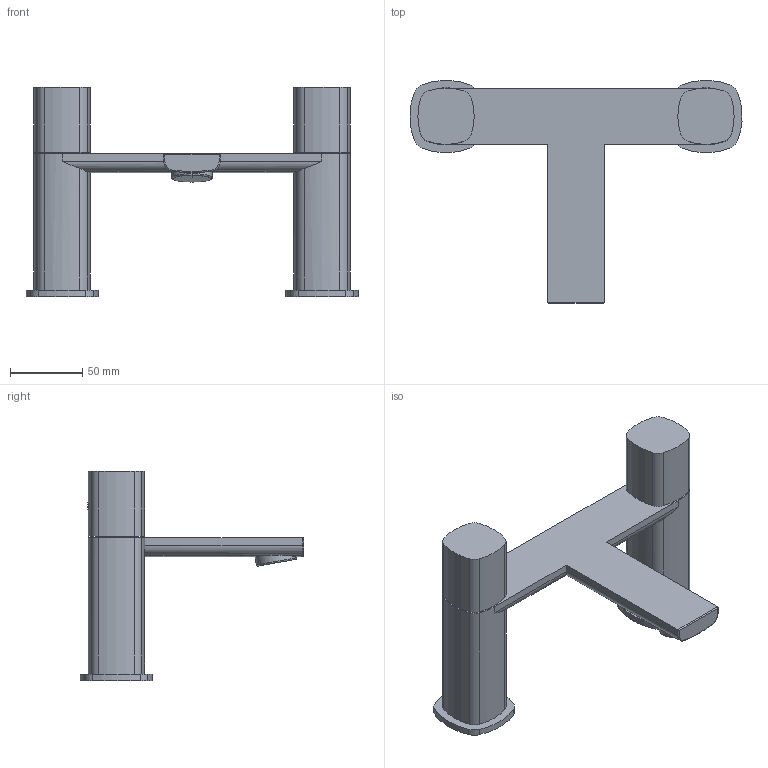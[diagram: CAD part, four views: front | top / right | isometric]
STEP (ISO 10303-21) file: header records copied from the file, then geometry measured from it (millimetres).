
FILE_DESCRIPTION(('FreeCAD Model'),'2;1');
FILE_NAME('Open CASCADE Shape Model','2024-11-19T14:16:18',('Author'),( ''),'Open CASCADE STEP processor 7.6','FreeCAD','Unknown');
FILE_SCHEMA(('AUTOMOTIVE_DESIGN { 1 0 10303 214 1 1 1 1 }'));
Length unit declared in the file: millimetre
Products named in the file (4): TopLevelAssembly; Obrót profilu; Obrót profilu001; Połączona geometria bryłowa
Assembly tree (3 placements, depth 2):
  TopLevelAssembly
    Obrót profilu
    Obrót profilu001
    Połączona geometria bryłowa
Bounding box: 229.87 x 154.54 x 144.8 mm (x, y, z)
Volume: 513519.5 mm3; surface area: 74511.9 mm2
Topology: 3 solids, 3 shells, 107 faces, 260 edges, 163 vertices
Faces by surface type: cylinder 73, plane 25, bspline 9
Entity records: 3477 total; most frequent: CARTESIAN_POINT 857, DIRECTION 572, ORIENTED_EDGE 512, EDGE_CURVE 256, AXIS2_PLACEMENT_3D 238, VERTEX_POINT 163, CIRCLE 130, FACE_BOUND 115
